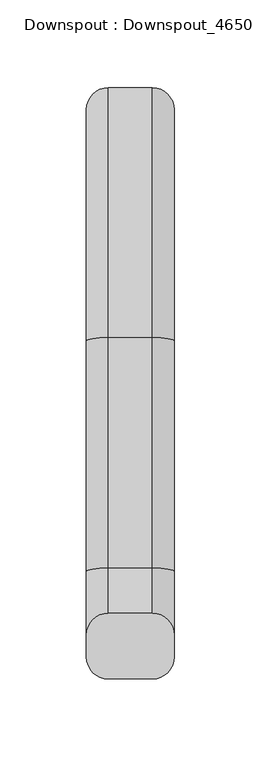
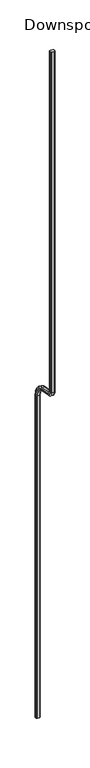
"""IFC4 building model written with IfcOpenShell, lengths in millimetres: proxy geometry, Downspout : Downspout_4650."""

from ifc_helpers import new_model, si_unit, point, frame, origin, place, context, project, spatial, polyline, circle_curve, ellipse_curve, trimmed, source, transform, mapped, element, save
from ifc_brep_helpers import plane_surface, cylinder_surface, revolved_surface, advanced_brep


def downspout_downspout_4650_afc3864c(model_context):
    return source(origin(), model_context, "Body", "AdvancedBrep", [
        advanced_brep(
        [(-12.7, -323.85, 8686.8), (12.7, -323.85, 8686.8), (25.4, -311.15, 8686.8), (25.4, -298.45, 8686.8), (12.7, -285.75, 8686.8), (-12.7, -285.75, 8686.8), (-25.4, -298.45, 8686.8), (-25.4, -311.15, 8686.8), (-12.7, -323.85, 4338.5010696), (12.7, -323.85, 4338.5010696), (25.4, -311.15, 4338.5010696), (25.4, -262.9402297, 4282.0546809), (25.4, -129.5527464, 4260.928179), (25.4, -6.35, 4116.6762969), (25.4, -6.35, 0.0), (25.4, 6.35, 0.0), (25.4, 6.35, 4116.6762969), (25.4, -127.5660287, 4273.471821), (25.4, -260.953512, 4294.5983229), (25.4, -298.45, 4338.5010696), (12.7, -285.75, 4338.5010696), (-12.7, -285.75, 4338.5010696), (-25.4, -298.45, 4338.5010696), (-25.4, -260.953512, 4294.5983229), (-25.4, -127.5660287, 4273.471821), (-25.4, 6.35, 4116.6762969), (-25.4, 6.35, 0.0), (-25.4, -6.35, 0.0), (-25.4, -6.35, 4116.6762969), (-25.4, -129.5527464, 4260.928179), (-25.4, -262.9402297, 4282.0546809), (-25.4, -311.15, 4338.5010696), (12.7, -264.9269474, 4269.511039), (-12.7, -264.9269474, 4269.511039), (12.7, -258.9667943, 4307.1419648), (-12.7, -258.9667943, 4307.1419648), (-12.7, -131.5394641, 4248.3845371), (12.7, -131.5394641, 4248.3845371), (12.7, -125.579311, 4286.0154629), (-12.7, -125.579311, 4286.0154629), (12.7, -19.05, 4116.6762969), (-12.7, -19.05, 4116.6762969), (12.7, 19.05, 4116.6762969), (-12.7, 19.05, 4116.6762969), (-12.7, -19.05, 0.0), (-12.7, 19.05, 0.0), (12.7, 19.05, 0.0), (12.7, -19.05, 0.0)],
        [
            (0, 1),
            (1, 2, circle_curve(frame((12.7, -311.15, 8686.8), z_axis=(0.0, 0.0, 1.0), x_axis=(1.0, 0.0, 0.0)), 12.7)),
            (2, 3),
            (3, 4, circle_curve(frame((12.7, -298.45, 8686.8), z_axis=(0.0, 0.0, 1.0), x_axis=(1.0, 0.0, 0.0)), 12.7)),
            (4, 5),
            (5, 6, circle_curve(frame((-12.7, -298.45, 8686.8), z_axis=(0.0, 0.0, 1.0), x_axis=(1.0, 0.0, 0.0)), 12.7)),
            (6, 7),
            (7, 0, circle_curve(frame((-12.7, -311.15, 8686.8), z_axis=(0.0, 0.0, 1.0), x_axis=(1.0, 0.0, 0.0)), 12.7)),
            (0, 8),
            (8, 9),
            (9, 1),
            (9, 10, circle_curve(frame((12.7, -311.15, 4338.5010696), z_axis=(0.0, 0.0, 1.0), x_axis=(1.0, 0.0, 0.0)), 12.7)),
            (10, 2),
            (10, 11, circle_curve(frame((25.4, -254.0, 4338.5010696), z_axis=(1.0, 0.0, 0.0), x_axis=(0.0, -1.0, 0.0)), 57.15)),
            (11, 12),
            (12, 13, circle_curve(frame((25.4, -152.4, 4116.6762969), z_axis=(-1.0, 0.0, 0.0), x_axis=(0.0, 0.15643446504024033, 0.9876883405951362)), 146.05)),
            (13, 14),
            (14, 15),
            (15, 16),
            (16, 17, circle_curve(frame((25.4, -152.4, 4116.6762969), z_axis=(1.0, 0.0, 0.0), x_axis=(0.0, 0.15643446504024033, 0.9876883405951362)), 158.75)),
            (17, 18),
            (18, 19, circle_curve(frame((25.4, -254.0, 4338.5010696), z_axis=(-1.0, 0.0, 0.0), x_axis=(0.0, -1.0, 0.0)), 44.45)),
            (19, 3),
            (19, 20, circle_curve(frame((12.7, -298.45, 4338.5010696), z_axis=(0.0, 0.0, 1.0), x_axis=(1.0, 0.0, 0.0)), 12.7)),
            (20, 4),
            (20, 21),
            (21, 5),
            (21, 22, circle_curve(frame((-12.7, -298.45, 4338.5010696), z_axis=(0.0, 0.0, 1.0), x_axis=(1.0, 0.0, 0.0)), 12.7)),
            (22, 6),
            (22, 23, circle_curve(frame((-25.4, -254.0, 4338.5010696), z_axis=(1.0, 0.0, 0.0), x_axis=(0.0, -1.0, 0.0)), 44.45)),
            (23, 24),
            (24, 25, circle_curve(frame((-25.4, -152.4, 4116.6762969), z_axis=(-1.0, 0.0, 0.0), x_axis=(0.0, 0.15643446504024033, 0.9876883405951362)), 158.75)),
            (25, 26),
            (26, 27),
            (27, 28),
            (28, 29, circle_curve(frame((-25.4, -152.4, 4116.6762969), z_axis=(1.0, 0.0, 0.0), x_axis=(0.0, 0.15643446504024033, 0.9876883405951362)), 146.05)),
            (29, 30),
            (30, 31, circle_curve(frame((-25.4, -254.0, 4338.5010696), z_axis=(-1.0, 0.0, 0.0), x_axis=(0.0, -1.0, 0.0)), 57.15)),
            (31, 7),
            (31, 8, circle_curve(frame((-12.7, -311.15, 4338.5010696), z_axis=(0.0, 0.0, 1.0), x_axis=(1.0, 0.0, 0.0)), 12.7)),
            (32, 9, circle_curve(frame((12.7, -254.0, 4338.5010696), z_axis=(-1.0, 0.0, 0.0), x_axis=(0.0, -1.0, 0.0)), 69.85)),
            (8, 33, circle_curve(frame((-12.7, -254.0, 4338.5010696), z_axis=(1.0, 0.0, 0.0), x_axis=(0.0, -1.0, 0.0)), 69.85)),
            (33, 32),
            (32, 11, circle_curve(frame((12.7, -262.9402297, 4282.0546809), z_axis=(0.0, -0.9876883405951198, 0.1564344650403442), x_axis=(1.0, 0.0, 0.0)), 12.7)),
            (34, 20, circle_curve(frame((12.7, -254.0, 4338.5010696), z_axis=(-1.0, 0.0, 0.0), x_axis=(0.0, -1.0, 0.0)), 31.75)),
            (18, 34, circle_curve(frame((12.7, -260.953512, 4294.5983229), z_axis=(0.0, -0.9876883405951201, 0.1564344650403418), x_axis=(1.0, 0.0, 0.0)), 12.7)),
            (35, 21, circle_curve(frame((-12.7, -254.0, 4338.5010696), z_axis=(-1.0, 0.0, 0.0), x_axis=(0.0, -1.0, 0.0)), 31.75)),
            (34, 35),
            (35, 23, circle_curve(frame((-12.7, -260.953512, 4294.5983229), z_axis=(0.0, -0.9876883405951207, 0.15643446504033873), x_axis=(1.0, 0.0, 0.0)), 12.7)),
            (30, 33, circle_curve(frame((-12.7, -262.9402297, 4282.0546809), z_axis=(0.0, -0.98768834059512, 0.1564344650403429), x_axis=(1.0, 0.0, 0.0)), 12.7)),
            (33, 36),
            (36, 37),
            (37, 32),
            (37, 12, circle_curve(frame((12.7, -129.5527464, 4260.928179), z_axis=(0.0, -0.9876883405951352, 0.15643446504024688), x_axis=(1.0, 0.0, 0.0)), 12.7)),
            (17, 38, circle_curve(frame((12.7, -127.5660287, 4273.471821), z_axis=(0.0, -0.9876883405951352, 0.15643446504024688), x_axis=(1.0, 0.0, 0.0)), 12.7)),
            (38, 34),
            (38, 39),
            (39, 35),
            (39, 24, circle_curve(frame((-12.7, -127.5660287, 4273.471821), z_axis=(0.0, -0.9876883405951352, 0.15643446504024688), x_axis=(1.0, 0.0, 0.0)), 12.7)),
            (29, 36, circle_curve(frame((-12.7, -129.5527464, 4260.928179), z_axis=(0.0, -0.9876883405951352, 0.15643446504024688), x_axis=(1.0, 0.0, 0.0)), 12.7)),
            (40, 37, circle_curve(frame((12.7, -152.4, 4116.6762969), z_axis=(1.0, 0.0, 0.0), x_axis=(0.0, 0.15643446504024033, 0.9876883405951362)), 133.35)),
            (36, 41, circle_curve(frame((-12.7, -152.4, 4116.6762969), z_axis=(-1.0, 0.0, 0.0), x_axis=(0.0, 0.15643446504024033, 0.9876883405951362)), 133.35)),
            (41, 40),
            (40, 13, circle_curve(frame((12.7, -6.35, 4116.6762969), z_axis=(0.0, 0.0, 1.0), x_axis=(1.0, 0.0, 0.0)), 12.7)),
            (42, 38, circle_curve(frame((12.7, -152.4, 4116.6762969), z_axis=(1.0, 0.0, 0.0), x_axis=(0.0, 0.15643446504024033, 0.9876883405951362)), 171.45)),
            (16, 42, circle_curve(frame((12.7, 6.35, 4116.6762969), z_axis=(0.0, 0.0, 1.0), x_axis=(1.0, 0.0, 0.0)), 12.7)),
            (43, 39, circle_curve(frame((-12.7, -152.4, 4116.6762969), z_axis=(1.0, 0.0, 0.0), x_axis=(0.0, 0.15643446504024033, 0.9876883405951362)), 171.45)),
            (42, 43),
            (43, 25, circle_curve(frame((-12.7, 6.35, 4116.6762969), z_axis=(0.0, 0.0, 1.0), x_axis=(1.0, 0.0, 0.0)), 12.7)),
            (28, 41, circle_curve(frame((-12.7, -6.35, 4116.6762969), z_axis=(0.0, 0.0, 1.0), x_axis=(1.0, 0.0, 0.0)), 12.7)),
            (44, 27, circle_curve(frame((-12.7, -6.35, 0.0), z_axis=(0.0, 0.0, -1.0), x_axis=(1.0, 0.0, 0.0)), 12.7)),
            (26, 45, circle_curve(frame((-12.7, 6.35, 0.0), z_axis=(0.0, 0.0, -1.0), x_axis=(1.0, 0.0, 0.0)), 12.7)),
            (45, 46),
            (46, 15, circle_curve(frame((12.7, 6.35, 0.0), z_axis=(0.0, 0.0, -1.0), x_axis=(1.0, 0.0, 0.0)), 12.7)),
            (14, 47, circle_curve(frame((12.7, -6.35, 0.0), z_axis=(0.0, 0.0, -1.0), x_axis=(1.0, 0.0, 0.0)), 12.7)),
            (47, 44),
            (41, 44),
            (47, 40),
            (46, 42),
            (45, 43),
        ],
        [
            plane_surface(frame((0.0, -304.8, 8686.8), z_axis=(0.0, 0.0, 1.0), x_axis=(1.0, 0.0, 0.0))),
            plane_surface(frame((-12.7, -323.85, 8686.8), z_axis=(0.0, -1.0, 0.0), x_axis=(0.0, 0.0, -1.0))),
            cylinder_surface(frame((12.7, -311.15, 8686.8), z_axis=(0.0, 0.0, 1.0), x_axis=(1.0, 0.0, 0.0)), 12.7),
            plane_surface(frame((25.4, -311.15, 8686.8), z_axis=(1.0, 0.0, 0.0), x_axis=(0.0, 0.0, -1.0))),
            cylinder_surface(frame((12.7, -298.45, 8686.8), z_axis=(0.0, 0.0, 1.0), x_axis=(1.0, 0.0, 0.0)), 12.7),
            plane_surface(frame((12.7, -285.75, 8686.8), z_axis=(0.0, 1.0, 0.0), x_axis=(0.0, 0.0, -1.0))),
            cylinder_surface(frame((-12.7, -298.45, 8686.8), z_axis=(0.0, 0.0, 1.0), x_axis=(1.0, 0.0, 0.0)), 12.7),
            plane_surface(frame((-25.4, -298.45, 8686.8), z_axis=(-1.0, 0.0, 0.0), x_axis=(0.0, 0.0, -1.0))),
            cylinder_surface(frame((-12.7, -311.15, 8686.8), z_axis=(0.0, 0.0, 1.0), x_axis=(1.0, 0.0, 0.0)), 12.7),
            cylinder_surface(frame((0.0, -254.0, 4338.5010696), z_axis=(1.0, 0.0, 0.0), x_axis=(0.0, -1.0, 0.0)), 69.85),
            revolved_surface(trimmed(ellipse_curve(frame((12.7, -311.15, 4338.5010696), z_axis=(0.0, 0.0, 1.0), x_axis=(1.0, 0.0, 0.0)), 12.7, 12.7), [point((12.7, -323.85, 4338.5010696))], [point((25.4, -311.15, 4338.5010696))], True, "CARTESIAN"), (0.0, -254.0, 4338.5010696), (1.0, 0.0, 0.0)),
            revolved_surface(trimmed(ellipse_curve(frame((12.7, -298.45, 4338.5010696), z_axis=(0.0, 0.0, 1.0), x_axis=(1.0, 0.0, 0.0)), 12.7, 12.7), [point((25.4, -298.45, 4338.5010696))], [point((12.7, -285.75, 4338.5010696))], True, "CARTESIAN"), (0.0, -254.0, 4338.5010696), (1.0, 0.0, 0.0)),
            revolved_surface(polyline([(12.7, -285.75, 4338.5010696), (-12.7, -285.75, 4338.5010696)]), (0.0, -254.0, 4338.5010696), (1.0, 0.0, 0.0)),
            revolved_surface(trimmed(ellipse_curve(frame((-12.7, -298.45, 4338.5010696), z_axis=(0.0, 0.0, 1.0), x_axis=(1.0, 0.0, 0.0)), 12.7, 12.7), [point((-12.7, -285.75, 4338.5010696))], [point((-25.4, -298.45, 4338.5010696))], True, "CARTESIAN"), (0.0, -254.0, 4338.5010696), (1.0, 0.0, 0.0)),
            revolved_surface(trimmed(ellipse_curve(frame((-12.7, -311.15, 4338.5010696), z_axis=(0.0, 0.0, 1.0), x_axis=(1.0, 0.0, 0.0)), 12.7, 12.7), [point((-25.4, -311.15, 4338.5010696))], [point((-12.7, -323.85, 4338.5010696))], True, "CARTESIAN"), (0.0, -254.0, 4338.5010696), (1.0, 0.0, 0.0)),
            plane_surface(frame((-12.7, -264.9269474, 4269.511039), z_axis=(0.0, -0.15643446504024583, -0.9876883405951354), x_axis=(0.0, 0.9876883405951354, -0.15643446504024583))),
            cylinder_surface(frame((12.7, -262.9402297, 4282.0546809), z_axis=(0.0, -0.9876883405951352, 0.15643446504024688), x_axis=(1.0, 0.0, 0.0)), 12.7),
            cylinder_surface(frame((12.7, -260.953512, 4294.5983229), z_axis=(0.0, -0.9876883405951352, 0.15643446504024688), x_axis=(1.0, 0.0, 0.0)), 12.7),
            plane_surface(frame((12.7, -258.9667943, 4307.1419648), z_axis=(0.0, 0.15643446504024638, 0.9876883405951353), x_axis=(0.0, 0.9876883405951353, -0.15643446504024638))),
            cylinder_surface(frame((-12.7, -260.953512, 4294.5983229), z_axis=(0.0, -0.9876883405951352, 0.15643446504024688), x_axis=(1.0, 0.0, 0.0)), 12.7),
            cylinder_surface(frame((-12.7, -262.9402297, 4282.0546809), z_axis=(0.0, -0.9876883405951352, 0.15643446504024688), x_axis=(1.0, 0.0, 0.0)), 12.7),
            revolved_surface(polyline([(-12.7, -131.53946408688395, 4248.384537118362), (12.7, -131.53946408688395, 4248.384537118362)]), (0.0, -152.4, 4116.6762969), (-1.0, 0.0, 0.0)),
            revolved_surface(trimmed(ellipse_curve(frame((12.7, -129.5527464, 4260.928179), z_axis=(0.0, -0.9876883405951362, 0.1564344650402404), x_axis=(1.0, 0.0, 0.0)), 12.7, 12.7), [point((12.7, -131.5394641, 4248.3845371))], [point((25.4, -129.5527464, 4260.928179))], True, "CARTESIAN"), (0.0, -152.4, 4116.6762969), (-1.0, 0.0, 0.0)),
            revolved_surface(trimmed(ellipse_curve(frame((12.7, -127.5660287, 4273.471821), z_axis=(0.0, -0.9876883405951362, 0.1564344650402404), x_axis=(1.0, 0.0, 0.0)), 12.7, 12.7), [point((25.4, -127.5660287, 4273.471821))], [point((12.7, -125.579311, 4286.0154629))], True, "CARTESIAN"), (0.0, -152.4, 4116.6762969), (-1.0, 0.0, 0.0)),
            cylinder_surface(frame((0.0, -152.4, 4116.6762969), z_axis=(-1.0, 0.0, 0.0), x_axis=(0.0, 0.15643446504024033, 0.9876883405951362)), 171.45),
            revolved_surface(trimmed(ellipse_curve(frame((-12.7, -127.5660287, 4273.471821), z_axis=(0.0, -0.9876883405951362, 0.1564344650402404), x_axis=(1.0, 0.0, 0.0)), 12.7, 12.7), [point((-12.7, -125.579311, 4286.0154629))], [point((-25.4, -127.5660287, 4273.471821))], True, "CARTESIAN"), (0.0, -152.4, 4116.6762969), (-1.0, 0.0, 0.0)),
            revolved_surface(trimmed(ellipse_curve(frame((-12.7, -129.5527464, 4260.928179), z_axis=(0.0, -0.9876883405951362, 0.1564344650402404), x_axis=(1.0, 0.0, 0.0)), 12.7, 12.7), [point((-25.4, -129.5527464, 4260.928179))], [point((-12.7, -131.5394641, 4248.3845371))], True, "CARTESIAN"), (0.0, -152.4, 4116.6762969), (-1.0, 0.0, 0.0)),
            plane_surface(frame((0.0, 0.0, 0.0), z_axis=(0.0, 0.0, -1.0), x_axis=(1.0, 0.0, 0.0))),
            plane_surface(frame((-12.7, -19.05, 4116.6762969), z_axis=(0.0, -1.0, 0.0), x_axis=(0.0, 0.0, -1.0))),
            cylinder_surface(frame((12.7, -6.35, 4116.6762969), z_axis=(0.0, 0.0, 1.0), x_axis=(1.0, 0.0, 0.0)), 12.7),
            cylinder_surface(frame((12.7, 6.35, 4116.6762969), z_axis=(0.0, 0.0, 1.0), x_axis=(1.0, 0.0, 0.0)), 12.7),
            plane_surface(frame((12.7, 19.05, 4116.6762969), z_axis=(0.0, 1.0, 0.0), x_axis=(0.0, 0.0, -1.0))),
            cylinder_surface(frame((-12.7, 6.35, 4116.6762969), z_axis=(0.0, 0.0, 1.0), x_axis=(1.0, 0.0, 0.0)), 12.7),
            cylinder_surface(frame((-12.7, -6.35, 4116.6762969), z_axis=(0.0, 0.0, 1.0), x_axis=(1.0, 0.0, 0.0)), 12.7),
        ],
        [
            (0, [[1, 2, 3, 4, 5, 6, 7, 8]]),
            (1, [[-1, 9, 10, 11]]),
            (2, [[-2, -11, 12, 13]]),
            (3, [[-3, -13, 14, 15, 16, 17, 18, 19, 20, 21, 22, 23]]),
            (4, [[-4, -23, 24, 25]]),
            (5, [[-5, -25, 26, 27]]),
            (6, [[-6, -27, 28, 29]]),
            (7, [[-7, -29, 30, 31, 32, 33, 34, 35, 36, 37, 38, 39]]),
            (8, [[-8, -39, 40, -9]]),
            (9, [[41, -10, 42, 43]]),
            (10, [[-14, -12, -41, 44]]),
            (11, [[45, -24, -22, 46]]),
            (12, [[47, -26, -45, 48]]),
            (13, [[-30, -28, -47, 49]]),
            (14, [[-42, -40, -38, 50]]),
            (15, [[-43, 51, 52, 53]]),
            (16, [[-44, -53, 54, -15]]),
            (17, [[-46, -21, 55, 56]]),
            (18, [[-48, -56, 57, 58]]),
            (19, [[-49, -58, 59, -31]]),
            (20, [[-50, -37, 60, -51]]),
            (21, [[61, -52, 62, 63]]),
            (22, [[-16, -54, -61, 64]]),
            (23, [[65, -55, -20, 66]]),
            (24, [[67, -57, -65, 68]]),
            (25, [[-32, -59, -67, 69]]),
            (26, [[-62, -60, -36, 70]]),
            (27, [[71, -34, 72, 73, 74, -18, 75, 76]]),
            (28, [[-63, 77, -76, 78]]),
            (29, [[-64, -78, -75, -17]]),
            (30, [[-66, -19, -74, 79]]),
            (31, [[-68, -79, -73, 80]]),
            (32, [[-69, -80, -72, -33]]),
            (33, [[-70, -35, -71, -77]]),
        ],
    ),
    ])


if __name__ == "__main__":
    model = new_model("IFC4")
    model_context = context("Model", 3, world=origin())
    ifc_project = project(units=[si_unit("LENGTHUNIT", "METRE", prefix="MILLI")], contexts=[model_context])
    site = spatial("IfcSite", under=ifc_project)
    building = spatial("IfcBuilding", under=site)
    placement = place(None, origin())
    downspout_downspout_4650_shape = downspout_downspout_4650_afc3864c(model_context)
    element("IfcBuildingElementProxy", 1, Name="Downspout : Downspout_4650", ObjectType="Downspout : Downspout_4650", at=placement, inside=building, context=model_context, shape_type="MappedRepresentation", body=[
        mapped(downspout_downspout_4650_shape, transform((0.0, 0.0, 0.0), x_axis=(1.0, 0.0, 0.0), y_axis=(0.0, 1.0, 0.0), z_axis=(0.0, 0.0, 1.0))),
    ])
    save(model, "model.ifc")
